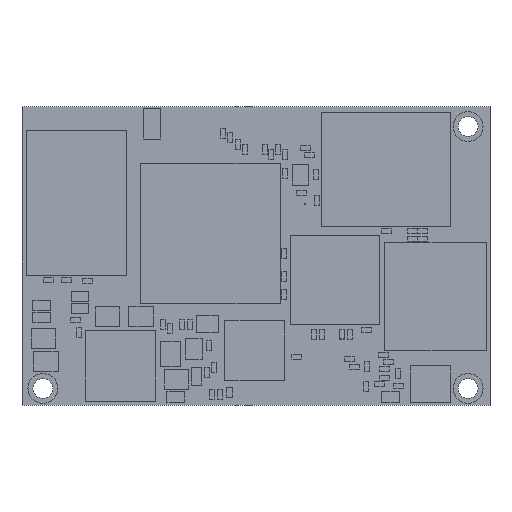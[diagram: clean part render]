
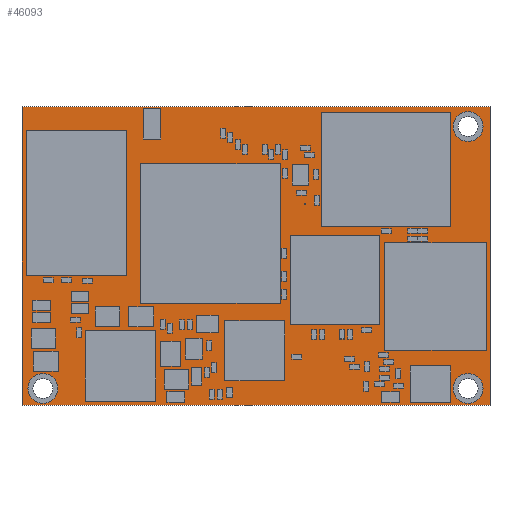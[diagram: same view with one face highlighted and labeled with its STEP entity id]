
A CAD part, top view. The second image highlights one B-rep face of the part: STEP entity #46093.
In plain terms, the highlighted planar face has unit normal (0, 0, 1).
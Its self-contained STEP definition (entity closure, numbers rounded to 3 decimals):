
#1578 = DIRECTION ( 'NONE',  ( 1., 0., 0. ) ) ;
#2752 = CARTESIAN_POINT ( 'NONE',  ( 44.8, 28., 1.6 ) ) ;
#4681 = DIRECTION ( 'NONE',  ( -1., 0., 0. ) ) ;
#4929 = AXIS2_PLACEMENT_3D ( 'NONE', #157771, #75922, #23351 ) ;
#8825 = EDGE_LOOP ( 'NONE', ( #24071, #176694, #97595, #120659 ) ) ;
#8863 = CARTESIAN_POINT ( 'NONE',  ( 44.8, 1.7, 1.6 ) ) ;
#15184 = EDGE_CURVE ( 'NONE', #119503, #140001, #89372, .T. ) ;
#15590 = EDGE_LOOP ( 'NONE', ( #98911, #86882 ) ) ;
#16234 = DIRECTION ( 'NONE',  ( 0., 1., 0. ) ) ;
#16834 = FACE_OUTER_BOUND ( 'NONE', #8825, .T. ) ;
#19406 = CIRCLE ( 'NONE', #172478, 1.5 ) ;
#20312 = VERTEX_POINT ( 'NONE', #39691 ) ;
#20754 = CARTESIAN_POINT ( 'NONE',  ( 43.3, 28., 1.6 ) ) ;
#23351 = DIRECTION ( 'NONE',  ( 1., 0., 0. ) ) ;
#23846 = CARTESIAN_POINT ( 'NONE',  ( 0., 0., 1.6 ) ) ;
#24071 = ORIENTED_EDGE ( 'NONE', *, *, #88729, .T. ) ;
#27552 = CARTESIAN_POINT ( 'NONE',  ( 3.6, 1.7, 1.6 ) ) ;
#31925 = VECTOR ( 'NONE', #16234, 1000. ) ;
#34439 = EDGE_CURVE ( 'NONE', #107264, #40607, #95900, .T. ) ;
#35392 = AXIS2_PLACEMENT_3D ( 'NONE', #40615, #120857, #38846 ) ;
#38219 = FACE_BOUND ( 'NONE', #173469, .T. ) ;
#38846 = DIRECTION ( 'NONE',  ( 1., 0., 0. ) ) ;
#39691 = CARTESIAN_POINT ( 'NONE',  ( 43.3, 1.7, 1.6 ) ) ;
#40607 = VERTEX_POINT ( 'NONE', #73305 ) ;
#40615 = CARTESIAN_POINT ( 'NONE',  ( 2.1, 1.7, 1.6 ) ) ;
#40866 = ORIENTED_EDGE ( 'NONE', *, *, #123066, .F. ) ;
#41797 = ORIENTED_EDGE ( 'NONE', *, *, #130598, .F. ) ;
#46093 = ADVANCED_FACE ( 'NONE', ( #74586, #61754, #38219, #16834 ), #157787, .T. ) ;
#48500 = EDGE_LOOP ( 'NONE', ( #41797, #126963 ) ) ;
#49589 = CARTESIAN_POINT ( 'NONE',  ( 0.6, 1.7, 1.6 ) ) ;
#51473 = VERTEX_POINT ( 'NONE', #27552 ) ;
#59355 = AXIS2_PLACEMENT_3D ( 'NONE', #61653, #102837, #155485 ) ;
#59621 = LINE ( 'NONE', #114971, #132385 ) ;
#61653 = CARTESIAN_POINT ( 'NONE',  ( 44.8, 28., 1.6 ) ) ;
#61754 = FACE_BOUND ( 'NONE', #15590, .T. ) ;
#63463 = CIRCLE ( 'NONE', #123718, 1.5 ) ;
#64318 = DIRECTION ( 'NONE',  ( 0., 0., 1. ) ) ;
#65888 = VECTOR ( 'NONE', #132630, 1000. ) ;
#68370 = CARTESIAN_POINT ( 'NONE',  ( 46.3, 1.7, 1.6 ) ) ;
#68812 = CARTESIAN_POINT ( 'NONE',  ( 47., 0., 1.6 ) ) ;
#73305 = CARTESIAN_POINT ( 'NONE',  ( 0., 30., 1.6 ) ) ;
#74586 = FACE_BOUND ( 'NONE', #48500, .T. ) ;
#74631 = CARTESIAN_POINT ( 'NONE',  ( 0., 0., 1.6 ) ) ;
#75922 = DIRECTION ( 'NONE',  ( 0., 0., 1. ) ) ;
#78066 = CARTESIAN_POINT ( 'NONE',  ( 2.1, 1.7, 1.6 ) ) ;
#80336 = CARTESIAN_POINT ( 'NONE',  ( 47., 30., 1.6 ) ) ;
#85147 = VERTEX_POINT ( 'NONE', #92905 ) ;
#86882 = ORIENTED_EDGE ( 'NONE', *, *, #103560, .F. ) ;
#88729 = EDGE_CURVE ( 'NONE', #40607, #119503, #59621, .T. ) ;
#89028 = CIRCLE ( 'NONE', #59355, 1.5 ) ;
#89154 = ORIENTED_EDGE ( 'NONE', *, *, #163061, .F. ) ;
#89372 = LINE ( 'NONE', #23846, #65888 ) ;
#92034 = CARTESIAN_POINT ( 'NONE',  ( 0., 0., 1.6 ) ) ;
#92905 = CARTESIAN_POINT ( 'NONE',  ( 46.3, 28., 1.6 ) ) ;
#95194 = CIRCLE ( 'NONE', #164211, 1.5 ) ;
#95900 = LINE ( 'NONE', #126045, #115198 ) ;
#97595 = ORIENTED_EDGE ( 'NONE', *, *, #166882, .T. ) ;
#98911 = ORIENTED_EDGE ( 'NONE', *, *, #168872, .F. ) ;
#102837 = DIRECTION ( 'NONE',  ( 0., 0., 1. ) ) ;
#103560 = EDGE_CURVE ( 'NONE', #20312, #149405, #112882, .T. ) ;
#104476 = DIRECTION ( 'NONE',  ( 0., 0., 1. ) ) ;
#107264 = VERTEX_POINT ( 'NONE', #80336 ) ;
#112882 = CIRCLE ( 'NONE', #4929, 1.5 ) ;
#114693 = AXIS2_PLACEMENT_3D ( 'NONE', #92034, #130991, #119060 ) ;
#114971 = CARTESIAN_POINT ( 'NONE',  ( 0., 30., 1.6 ) ) ;
#115198 = VECTOR ( 'NONE', #4681, 1000. ) ;
#119060 = DIRECTION ( 'NONE',  ( 1., 0., 0. ) ) ;
#119503 = VERTEX_POINT ( 'NONE', #74631 ) ;
#119776 = DIRECTION ( 'NONE',  ( 0., -1., 0. ) ) ;
#120659 = ORIENTED_EDGE ( 'NONE', *, *, #34439, .T. ) ;
#120857 = DIRECTION ( 'NONE',  ( 0., 0., 1. ) ) ;
#123066 = EDGE_CURVE ( 'NONE', #85147, #125991, #63463, .T. ) ;
#123718 = AXIS2_PLACEMENT_3D ( 'NONE', #2752, #138431, #1578 ) ;
#125991 = VERTEX_POINT ( 'NONE', #20754 ) ;
#126045 = CARTESIAN_POINT ( 'NONE',  ( 47., 30., 1.6 ) ) ;
#126963 = ORIENTED_EDGE ( 'NONE', *, *, #157077, .F. ) ;
#127445 = CIRCLE ( 'NONE', #35392, 1.5 ) ;
#130598 = EDGE_CURVE ( 'NONE', #51473, #166177, #127445, .T. ) ;
#130991 = DIRECTION ( 'NONE',  ( 0., 0., 1. ) ) ;
#132385 = VECTOR ( 'NONE', #119776, 1000. ) ;
#132630 = DIRECTION ( 'NONE',  ( 1., 0., 0. ) ) ;
#134376 = DIRECTION ( 'NONE',  ( 1., 0., 0. ) ) ;
#136711 = LINE ( 'NONE', #68812, #31925 ) ;
#138431 = DIRECTION ( 'NONE',  ( 0., 0., 1. ) ) ;
#140001 = VERTEX_POINT ( 'NONE', #165038 ) ;
#149405 = VERTEX_POINT ( 'NONE', #68370 ) ;
#155485 = DIRECTION ( 'NONE',  ( 1., 0., 0. ) ) ;
#157077 = EDGE_CURVE ( 'NONE', #166177, #51473, #95194, .T. ) ;
#157771 = CARTESIAN_POINT ( 'NONE',  ( 44.8, 1.7, 1.6 ) ) ;
#157787 = PLANE ( 'NONE',  #114693 ) ;
#163061 = EDGE_CURVE ( 'NONE', #125991, #85147, #89028, .T. ) ;
#164211 = AXIS2_PLACEMENT_3D ( 'NONE', #78066, #64318, #175244 ) ;
#165038 = CARTESIAN_POINT ( 'NONE',  ( 47., 0., 1.6 ) ) ;
#166177 = VERTEX_POINT ( 'NONE', #49589 ) ;
#166882 = EDGE_CURVE ( 'NONE', #140001, #107264, #136711, .T. ) ;
#168872 = EDGE_CURVE ( 'NONE', #149405, #20312, #19406, .T. ) ;
#172478 = AXIS2_PLACEMENT_3D ( 'NONE', #8863, #104476, #134376 ) ;
#173469 = EDGE_LOOP ( 'NONE', ( #40866, #89154 ) ) ;
#175244 = DIRECTION ( 'NONE',  ( 1., 0., 0. ) ) ;
#176694 = ORIENTED_EDGE ( 'NONE', *, *, #15184, .T. ) ;
